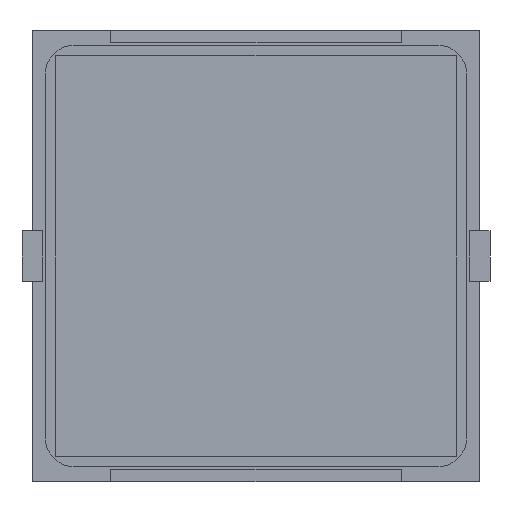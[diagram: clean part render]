
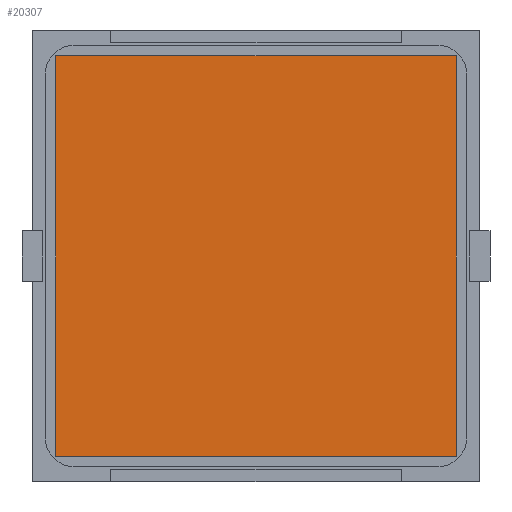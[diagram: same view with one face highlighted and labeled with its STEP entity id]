
A CAD part, front view. The second image highlights one B-rep face of the part: STEP entity #20307.
In plain terms, the highlighted planar face has unit normal (0, -1, 0).
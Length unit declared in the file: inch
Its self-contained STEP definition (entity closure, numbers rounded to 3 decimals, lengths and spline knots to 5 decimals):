
#1110 = DIRECTION ( 'NONE',  ( -1., 0., 0. ) ) ;
#2363 = LINE ( 'NONE', #9344, #10020 ) ;
#3436 = ORIENTED_EDGE ( 'NONE', *, *, #4509, .F. ) ;
#3715 = EDGE_CURVE ( 'NONE', #10958, #4913, #2363, .T. ) ;
#4498 = CARTESIAN_POINT ( 'NONE',  ( 0.7874, -0.005, 0.7874 ) ) ;
#4509 = EDGE_CURVE ( 'NONE', #4913, #19317, #19527, .T. ) ;
#4913 = VERTEX_POINT ( 'NONE', #22064 ) ;
#6562 = PLANE ( 'NONE',  #17667 ) ;
#9215 = VERTEX_POINT ( 'NONE', #11996 ) ;
#9344 = CARTESIAN_POINT ( 'NONE',  ( 0.7874, -0.005, -0.7874 ) ) ;
#9499 = LINE ( 'NONE', #9597, #21905 ) ;
#9597 = CARTESIAN_POINT ( 'NONE',  ( -0.7874, -0.005, -0.7874 ) ) ;
#9938 = ORIENTED_EDGE ( 'NONE', *, *, #3715, .F. ) ;
#10020 = VECTOR ( 'NONE', #21418, 39.37008 ) ;
#10582 = CARTESIAN_POINT ( 'NONE',  ( -0.7874, -0.005, -0.7874 ) ) ;
#10958 = VERTEX_POINT ( 'NONE', #4498 ) ;
#11115 = DIRECTION ( 'NONE',  ( 1., 0., 0. ) ) ;
#11199 = CARTESIAN_POINT ( 'NONE',  ( -0.7874, -0.005, -0.7874 ) ) ;
#11243 = VECTOR ( 'NONE', #11115, 39.37008 ) ;
#11445 = LINE ( 'NONE', #21788, #11243 ) ;
#11996 = CARTESIAN_POINT ( 'NONE',  ( -0.7874, -0.005, 0.7874 ) ) ;
#13278 = DIRECTION ( 'NONE',  ( 0., 0., 1. ) ) ;
#14864 = DIRECTION ( 'NONE',  ( 0., 1., 0. ) ) ;
#15966 = DIRECTION ( 'NONE',  ( 0., 0., 1. ) ) ;
#17667 = AXIS2_PLACEMENT_3D ( 'NONE', #18233, #14864, #13278 ) ;
#17775 = VECTOR ( 'NONE', #1110, 39.37008 ) ;
#18233 = CARTESIAN_POINT ( 'NONE',  ( -0.7874, -0.005, 0.7874 ) ) ;
#18280 = ORIENTED_EDGE ( 'NONE', *, *, #18470, .F. ) ;
#18470 = EDGE_CURVE ( 'NONE', #19317, #9215, #9499, .T. ) ;
#19317 = VERTEX_POINT ( 'NONE', #10582 ) ;
#19527 = LINE ( 'NONE', #11199, #17775 ) ;
#19962 = EDGE_LOOP ( 'NONE', ( #18280, #3436, #9938, #21775 ) ) ;
#20307 = ADVANCED_FACE ( 'NONE', ( #21627 ), #6562, .F. ) ;
#20921 = EDGE_CURVE ( 'NONE', #9215, #10958, #11445, .T. ) ;
#21418 = DIRECTION ( 'NONE',  ( 0., 0., -1. ) ) ;
#21627 = FACE_OUTER_BOUND ( 'NONE', #19962, .T. ) ;
#21775 = ORIENTED_EDGE ( 'NONE', *, *, #20921, .F. ) ;
#21788 = CARTESIAN_POINT ( 'NONE',  ( -0.7874, -0.005, 0.7874 ) ) ;
#21905 = VECTOR ( 'NONE', #15966, 39.37008 ) ;
#22064 = CARTESIAN_POINT ( 'NONE',  ( 0.7874, -0.005, -0.7874 ) ) ;
